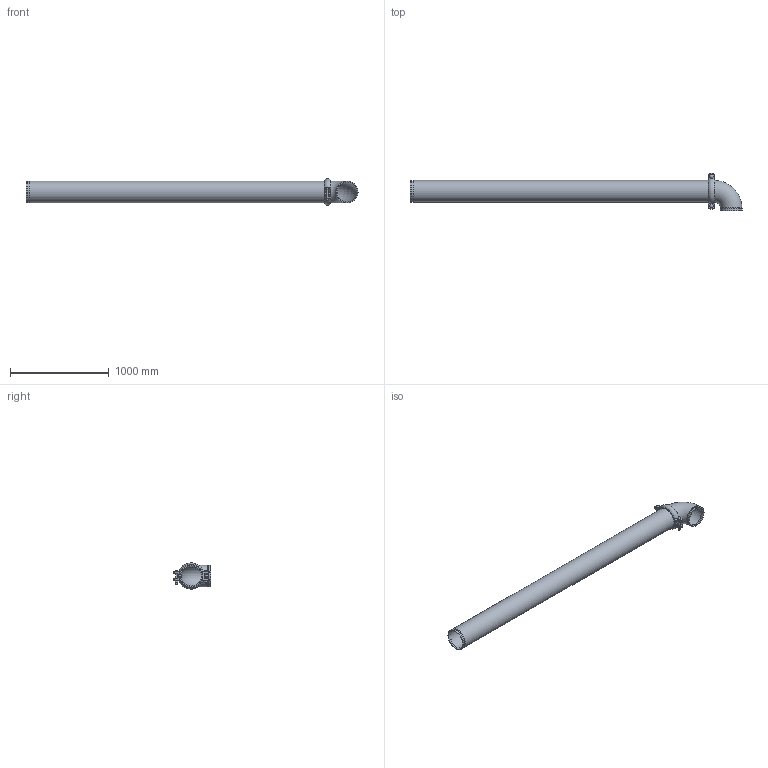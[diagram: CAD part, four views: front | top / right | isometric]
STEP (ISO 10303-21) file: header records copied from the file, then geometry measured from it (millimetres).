
FILE_DESCRIPTION(/* description */ ('VIC LONG RUN FITTING No R13 (OGS)','CAx-IF Rec.Pracs.---Representation and Presentation of Product Manufacturing Information (PMI)---4.0---2014-10-13'),/* implementation_level */ '2;1');
FILE_NAME(/* name */ 'C:\Users\Vjadhav\AppData\Roaming\Autodesk\ApplicationPlugins\Back Up\Victaulic_IPS_Long Run Fittings_No R13 (OGS)\Victaulic_IPS_Long Run Fittings_No R13 (OGS)_8 (200).stp',/* time_stamp */ '2020-10-06T18:26:51+06:00',/* author */ ('Vjadhav'),/* organization */ ('Victaulic'),/* preprocessor_version */ 'ST-DEVELOPER v17.2',/* originating_system */ 'Autodesk Inventor 2019',/* authorisation */ '');
FILE_SCHEMA (('AP242_MANAGED_MODEL_BASED_3D_ENGINEERING_MIM_LF { 1 0 10303 442 1 1 4 }'));
Length unit declared in the file: inch
Products named in the file (4): R13-08.0; 010-08.0; 107N-08.0; Pipe_R13-08.0
Assembly tree (3 placements, depth 2):
  R13-08.0
    010-08.0
    107N-08.0
    Pipe_R13-08.0
Bounding box: 3359.47 x 377.82 x 266.7 mm (x, y, z)
Volume: 19468472.3 mm3; surface area: 4675575 mm2
Topology: 3 solids, 3 shells, 149 faces, 383 edges, 256 vertices
Faces by surface type: plane 62, cylinder 57, bspline 16, torus 8, cone 4, sphere 2
Full cylindrical faces by diameter (mm): 19.05 x4, 32.537 x2, 202.717 x3, 206.375 x1, 214.401 x4, 219.075 x7
Entity records: 5776 total; most frequent: CARTESIAN_POINT 1739, DIRECTION 809, ORIENTED_EDGE 766, EDGE_CURVE 383, AXIS2_PLACEMENT_3D 318, VERTEX_POINT 256, EDGE_LOOP 175, LINE 173
